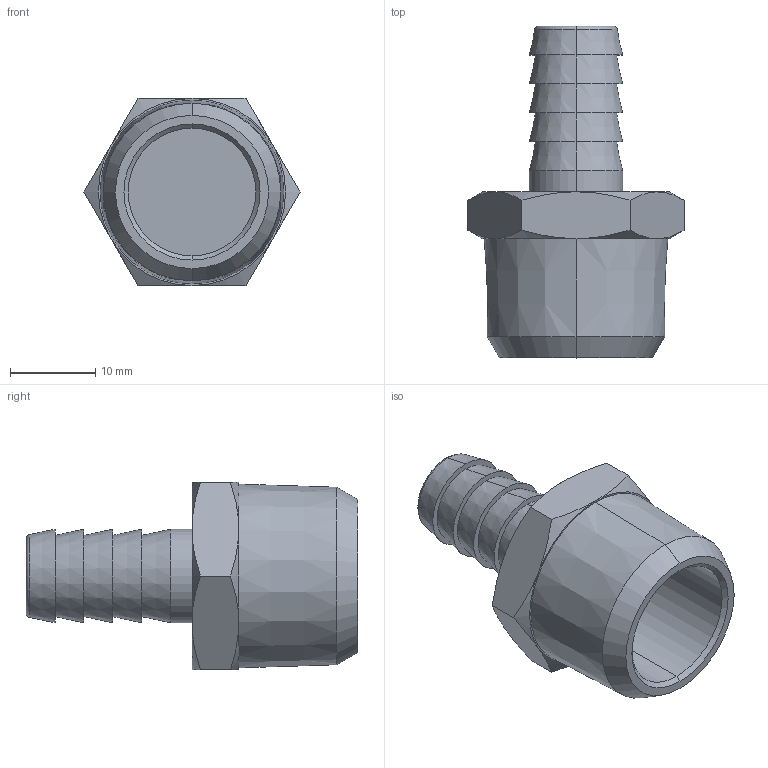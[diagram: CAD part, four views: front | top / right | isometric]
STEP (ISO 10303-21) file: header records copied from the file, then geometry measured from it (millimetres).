
FILE_DESCRIPTION (( 'STEP AP203' ), '1' );
FILE_NAME ('30400001VF00A.STEP', '2019-06-12T12:12:32', ( '' ), ( '' ), 'SwSTEP 2.0', 'SolidWorks 2016', '' );
FILE_SCHEMA (( 'CONFIG_CONTROL_DESIGN' ));
Length unit declared in the file: millimetre
Products named in the file (1): 30400001VF00A
Bounding box: 25.4 x 39 x 22 mm (x, y, z)
Volume: 4992.5 mm3; surface area: 3995.1 mm2
Topology: 1 solids, 1 shells, 52 faces, 106 edges, 64 vertices
Faces by surface type: cone 28, plane 16, cylinder 6, torus 2
Entity records: 1537 total; most frequent: CARTESIAN_POINT 367, DIRECTION 242, ORIENTED_EDGE 212, AXIS2_PLACEMENT_3D 107, EDGE_CURVE 106, VERTEX_POINT 64, EDGE_LOOP 60, CIRCLE 54
